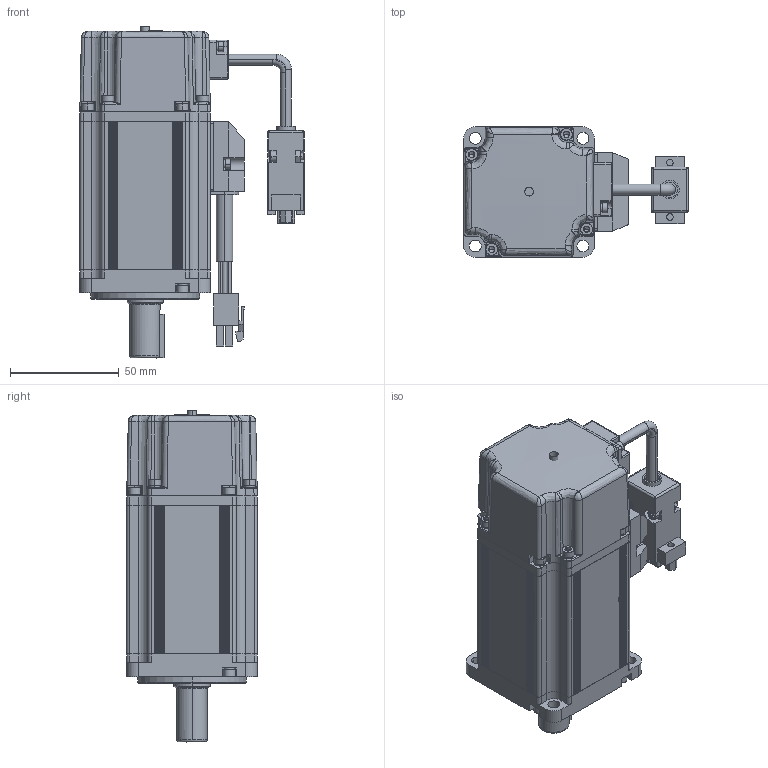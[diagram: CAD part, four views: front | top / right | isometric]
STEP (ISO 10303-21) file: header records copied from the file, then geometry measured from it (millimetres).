
FILE_DESCRIPTION((''),'2;1');
FILE_NAME('111MH06-0R2G_ASM','2018-05-02T',('Administrator'),(''),'PRO/ENGINEER BY PARAMETRIC TECHNOLOGY CORPORATION, 2009440','PRO/ENGINEER BY PARAMETRIC TECHNOLOGY CORPORATION, 2009440','');
FILE_SCHEMA(('CONFIG_CONTROL_DESIGN'));
Products named in the file (31): MH60-400W-8599; MH60-400-Z_ASM; ML60-QDG; 60-MFQ; 60-ZYG; GB-T93-2R5; GB-T70-M2R5X8; OQ-52X1; GB-T276-6003; GB-T93-3; GB-T70-M3X16; GB-T9877-17X28X4; ML60-Q_ASM; MH60-400W-JK; GB-T97-3; GB-T70-M3X5; DYX-CT; DYX-YXH; MH60-400W-DZ_ASM; 5X5X20; 60-H-JDS; OQ-50X1; 60-H-JDS_ASM; 60-FHZ-L; XHXCT; XHX; GB-T70-M3X12; 60-FHZ-ZJ_ASM; DYX-ZJ; XHX-ZJ; 111MH06-0R2G_ASM
Assembly tree (65 placements, depth 3):
  111MH06-0R2G_ASM
    MH60-400-Z_ASM
      MH60-400W-8599
    ML60-Q_ASM
      ML60-QDG
      60-MFQ
      60-ZYG
      GB-T93-2R5  x3
      GB-T70-M2R5X8  x3
      OQ-52X1
      GB-T276-6003
      GB-T93-3  x4
      GB-T70-M3X16  x4
      GB-T9877-17X28X4
    MH60-400W-DZ_ASM
      MH60-400W-JK
      GB-T97-3
      GB-T93-3
      GB-T70-M3X5
      DYX-CT
      DYX-YXH
      GB-T93-2R5  x2
      GB-T70-M2R5X8  x2
    5X5X20
    60-H-JDS_ASM
      60-H-JDS
      OQ-52X1
      OQ-50X1
      GB-T93-3  x4
      GB-T70-M3X16  x4
    60-FHZ-ZJ_ASM
      60-FHZ-L
      XHXCT
      XHX
      GB-T93-2R5  x2
      GB-T70-M2R5X8  x2
      GB-T93-3  x4
      GB-T70-M3X12  x4
    DYX-ZJ
    XHX-ZJ
Bounding box: 103.09 x 60 x 152.5 mm (x, y, z)
Volume: 175094.6 mm3; surface area: 123443.4 mm2
Topology: 60 solids, 84 shells, 2652 faces, 6211 edges, 3815 vertices
Faces by surface type: plane 1368, cylinder 735, cone 339, torus 115, bspline 86, sphere 5, extrusion 4
Entity records: 65933 total; most frequent: CARTESIAN_POINT 18171, DIRECTION 9932, ORIENTED_EDGE 9624, EDGE_CURVE 4827, AXIS2_PLACEMENT_3D 3457, VERTEX_POINT 3079, VECTOR 3018, LINE 3014
